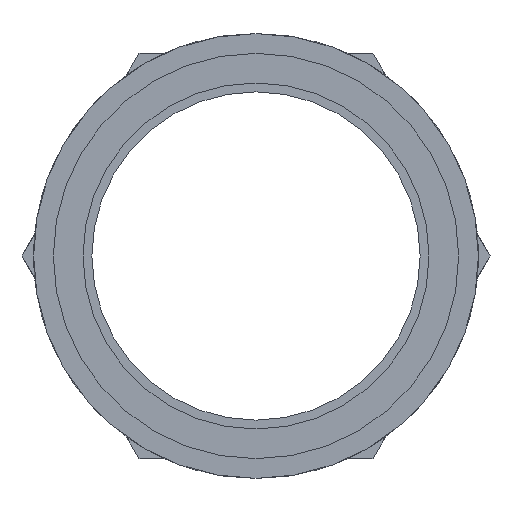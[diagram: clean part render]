
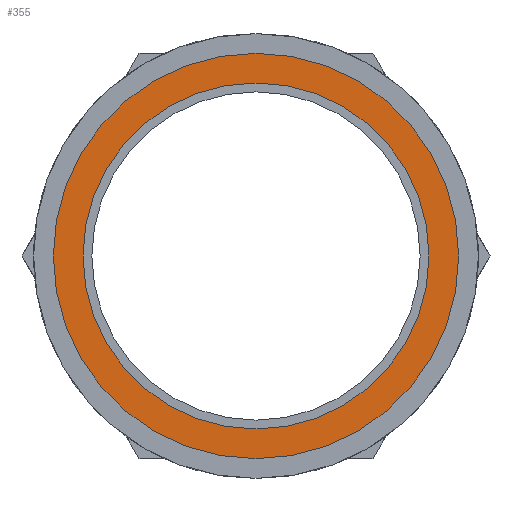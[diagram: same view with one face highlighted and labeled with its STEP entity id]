
A CAD part, left-side view. The second image highlights one B-rep face of the part: STEP entity #355.
In plain terms, the highlighted planar face has unit normal (-1, 0, 0).
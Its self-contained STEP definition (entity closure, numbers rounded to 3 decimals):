
#6 = EDGE_LOOP ( 'NONE', ( #888, #595 ) ) ;
#33 = EDGE_LOOP ( 'NONE', ( #933, #439 ) ) ;
#62 = CIRCLE ( 'NONE', #947, 17.5 ) ;
#112 = CARTESIAN_POINT ( 'NONE',  ( 34., 0., -20.5 ) ) ;
#146 = AXIS2_PLACEMENT_3D ( 'NONE', #540, #630, #621 ) ;
#198 = DIRECTION ( 'NONE',  ( 0., 0., 1. ) ) ;
#202 = DIRECTION ( 'NONE',  ( -1., 0., 0. ) ) ;
#223 = AXIS2_PLACEMENT_3D ( 'NONE', #919, #797, #457 ) ;
#238 = CARTESIAN_POINT ( 'NONE',  ( 34., 0., 20.5 ) ) ;
#242 = DIRECTION ( 'NONE',  ( 0., 0., 1. ) ) ;
#257 = CARTESIAN_POINT ( 'NONE',  ( 34., 0., 0. ) ) ;
#294 = DIRECTION ( 'NONE',  ( -1., 0., 0. ) ) ;
#302 = CARTESIAN_POINT ( 'NONE',  ( 34., 0., 0. ) ) ;
#348 = VERTEX_POINT ( 'NONE', #112 ) ;
#355 = ADVANCED_FACE ( 'NONE', ( #593, #564 ), #758, .F. ) ;
#439 = ORIENTED_EDGE ( 'NONE', *, *, #1023, .T. ) ;
#457 = DIRECTION ( 'NONE',  ( 0., 0., -1. ) ) ;
#498 = VERTEX_POINT ( 'NONE', #566 ) ;
#509 = CIRCLE ( 'NONE', #681, 20.5 ) ;
#528 = CARTESIAN_POINT ( 'NONE',  ( 34., 0., 17.5 ) ) ;
#540 = CARTESIAN_POINT ( 'NONE',  ( 34., 0., 0. ) ) ;
#564 = FACE_OUTER_BOUND ( 'NONE', #33, .T. ) ;
#566 = CARTESIAN_POINT ( 'NONE',  ( 34., 0., -17.5 ) ) ;
#571 = EDGE_CURVE ( 'NONE', #636, #348, #509, .T. ) ;
#593 = FACE_BOUND ( 'NONE', #6, .T. ) ;
#595 = ORIENTED_EDGE ( 'NONE', *, *, #913, .F. ) ;
#602 = DIRECTION ( 'NONE',  ( 0., 0., 1. ) ) ;
#621 = DIRECTION ( 'NONE',  ( 0., 0., 1. ) ) ;
#630 = DIRECTION ( 'NONE',  ( -1., 0., 0. ) ) ;
#636 = VERTEX_POINT ( 'NONE', #238 ) ;
#681 = AXIS2_PLACEMENT_3D ( 'NONE', #302, #294, #242 ) ;
#692 = CARTESIAN_POINT ( 'NONE',  ( 34., 0., 0. ) ) ;
#703 = EDGE_CURVE ( 'NONE', #736, #498, #62, .T. ) ;
#704 = DIRECTION ( 'NONE',  ( -1., 0., 0. ) ) ;
#731 = AXIS2_PLACEMENT_3D ( 'NONE', #257, #202, #198 ) ;
#736 = VERTEX_POINT ( 'NONE', #528 ) ;
#746 = CIRCLE ( 'NONE', #731, 20.5 ) ;
#758 = PLANE ( 'NONE',  #223 ) ;
#797 = DIRECTION ( 'NONE',  ( 1., 0., 0. ) ) ;
#800 = CIRCLE ( 'NONE', #146, 17.5 ) ;
#888 = ORIENTED_EDGE ( 'NONE', *, *, #703, .F. ) ;
#913 = EDGE_CURVE ( 'NONE', #498, #736, #800, .T. ) ;
#919 = CARTESIAN_POINT ( 'NONE',  ( 34., 17.5, 0. ) ) ;
#933 = ORIENTED_EDGE ( 'NONE', *, *, #571, .T. ) ;
#947 = AXIS2_PLACEMENT_3D ( 'NONE', #692, #704, #602 ) ;
#1023 = EDGE_CURVE ( 'NONE', #348, #636, #746, .T. ) ;
